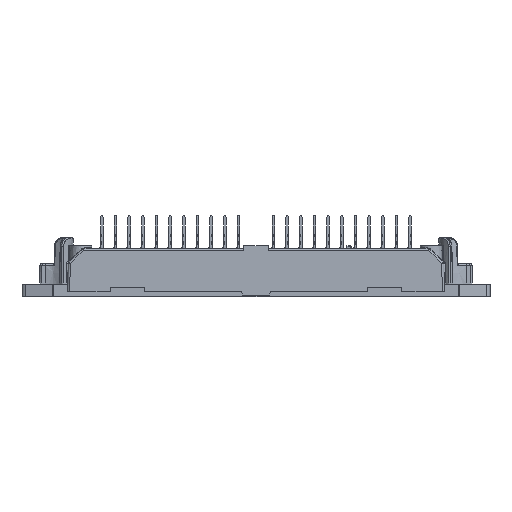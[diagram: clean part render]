
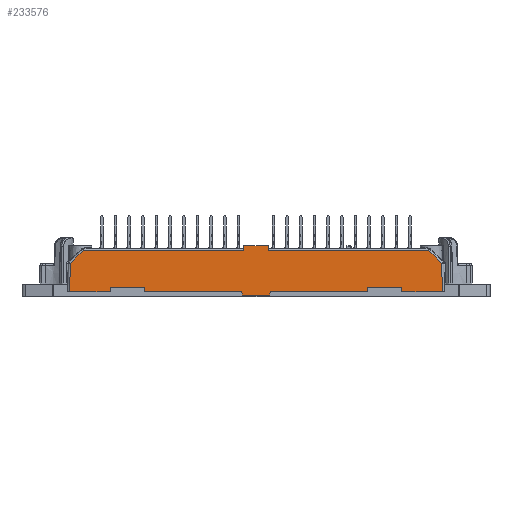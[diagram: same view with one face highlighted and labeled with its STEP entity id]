
A CAD part, front view. The second image highlights one B-rep face of the part: STEP entity #233576.
In plain terms, the highlighted planar face has unit normal (0, -1, 0.026).
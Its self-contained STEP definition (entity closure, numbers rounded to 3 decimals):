
#28501=ORIENTED_EDGE('',*,*,#72942,.F.);
#28502=ORIENTED_EDGE('',*,*,#72943,.T.);
#28503=ORIENTED_EDGE('',*,*,#72944,.F.);
#28504=ORIENTED_EDGE('',*,*,#72945,.T.);
#28505=ORIENTED_EDGE('',*,*,#72946,.T.);
#28506=ORIENTED_EDGE('',*,*,#71300,.F.);
#28507=ORIENTED_EDGE('',*,*,#71298,.T.);
#28508=ORIENTED_EDGE('',*,*,#72680,.F.);
#28509=ORIENTED_EDGE('',*,*,#71293,.T.);
#28510=ORIENTED_EDGE('',*,*,#72801,.T.);
#28511=ORIENTED_EDGE('',*,*,#71291,.T.);
#28512=ORIENTED_EDGE('',*,*,#71289,.T.);
#28513=ORIENTED_EDGE('',*,*,#72947,.T.);
#28514=ORIENTED_EDGE('',*,*,#72948,.F.);
#28515=ORIENTED_EDGE('',*,*,#72949,.T.);
#28516=ORIENTED_EDGE('',*,*,#72950,.T.);
#28517=ORIENTED_EDGE('',*,*,#72951,.T.);
#28518=ORIENTED_EDGE('',*,*,#71321,.F.);
#28519=ORIENTED_EDGE('',*,*,#71325,.T.);
#28520=ORIENTED_EDGE('',*,*,#71330,.F.);
#28521=ORIENTED_EDGE('',*,*,#71331,.F.);
#28522=ORIENTED_EDGE('',*,*,#71335,.T.);
#71289=EDGE_CURVE('',#91445,#91782,#112169,.T.);
#71291=EDGE_CURVE('',#91784,#91445,#112171,.T.);
#71293=EDGE_CURVE('',#91785,#91786,#112172,.F.);
#71298=EDGE_CURVE('',#91448,#91788,#112176,.F.);
#71300=EDGE_CURVE('',#91448,#91790,#112178,.T.);
#71321=EDGE_CURVE('',#91805,#91806,#112195,.F.);
#71325=EDGE_CURVE('',#91805,#91809,#112199,.T.);
#71330=EDGE_CURVE('',#91812,#91809,#112204,.F.);
#71331=EDGE_CURVE('',#91813,#91812,#112205,.T.);
#71335=EDGE_CURVE('',#91813,#91815,#112209,.F.);
#72680=EDGE_CURVE('',#91785,#91788,#112785,.T.);
#72801=EDGE_CURVE('',#91786,#91784,#112836,.T.);
#72942=EDGE_CURVE('',#92993,#91815,#112892,.F.);
#72943=EDGE_CURVE('',#92993,#92994,#112893,.F.);
#72944=EDGE_CURVE('',#92995,#92994,#112894,.F.);
#72945=EDGE_CURVE('',#92995,#92996,#112895,.F.);
#72946=EDGE_CURVE('',#92996,#91790,#112896,.F.);
#72947=EDGE_CURVE('',#91782,#92997,#112897,.F.);
#72948=EDGE_CURVE('',#92998,#92997,#112898,.F.);
#72949=EDGE_CURVE('',#92998,#92999,#112899,.F.);
#72950=EDGE_CURVE('',#92999,#93000,#112900,.F.);
#72951=EDGE_CURVE('',#93000,#91806,#112901,.F.);
#91445=VERTEX_POINT('',#323467);
#91448=VERTEX_POINT('',#323477);
#91782=VERTEX_POINT('',#327668);
#91784=VERTEX_POINT('',#327674);
#91785=VERTEX_POINT('',#327678);
#91786=VERTEX_POINT('',#327679);
#91788=VERTEX_POINT('',#327686);
#91790=VERTEX_POINT('',#327692);
#91805=VERTEX_POINT('',#327757);
#91806=VERTEX_POINT('',#327758);
#91809=VERTEX_POINT('',#327766);
#91812=VERTEX_POINT('',#327774);
#91813=VERTEX_POINT('',#327778);
#91815=VERTEX_POINT('',#327784);
#92993=VERTEX_POINT('',#332976);
#92994=VERTEX_POINT('',#332978);
#92995=VERTEX_POINT('',#332980);
#92996=VERTEX_POINT('',#332982);
#92997=VERTEX_POINT('',#332985);
#92998=VERTEX_POINT('',#332987);
#92999=VERTEX_POINT('',#332989);
#93000=VERTEX_POINT('',#332991);
#112169=LINE('',#327669,#132570);
#112171=LINE('',#327673,#132572);
#112172=LINE('',#327677,#132573);
#112176=LINE('',#327687,#132577);
#112178=LINE('',#327691,#132579);
#112195=LINE('',#327756,#132596);
#112199=LINE('',#327765,#132600);
#112204=LINE('',#327775,#132605);
#112205=LINE('',#327777,#132606);
#112209=LINE('',#327786,#132610);
#112785=LINE('',#332023,#133186);
#112836=LINE('',#332447,#133237);
#112892=LINE('',#332975,#133293);
#112893=LINE('',#332977,#133294);
#112894=LINE('',#332979,#133295);
#112895=LINE('',#332981,#133296);
#112896=LINE('',#332983,#133297);
#112897=LINE('',#332984,#133298);
#112898=LINE('',#332986,#133299);
#112899=LINE('',#332988,#133300);
#112900=LINE('',#332990,#133301);
#112901=LINE('',#332992,#133302);
#132570=VECTOR('',#272817,1000.);
#132572=VECTOR('',#272821,1000.);
#132573=VECTOR('',#272826,1000.);
#132577=VECTOR('',#272834,1000.);
#132579=VECTOR('',#272838,1000.);
#132596=VECTOR('',#272871,1000.);
#132600=VECTOR('',#272877,1000.);
#132605=VECTOR('',#272884,1000.);
#132606=VECTOR('',#272887,1000.);
#132610=VECTOR('',#272893,1000.);
#133186=VECTOR('',#275001,1000.);
#133237=VECTOR('',#275144,1000.);
#133293=VECTOR('',#275328,1000.);
#133294=VECTOR('',#275329,1000.);
#133295=VECTOR('',#275330,1000.);
#133296=VECTOR('',#275331,1000.);
#133297=VECTOR('',#275332,1000.);
#133298=VECTOR('',#275333,1000.);
#133299=VECTOR('',#275334,1000.);
#133300=VECTOR('',#275335,1000.);
#133301=VECTOR('',#275336,1000.);
#133302=VECTOR('',#275337,1000.);
#144977=EDGE_LOOP('',(#28501,#28502,#28503,#28504,#28505,#28506,#28507,
#28508,#28509,#28510,#28511,#28512,#28513,#28514,#28515,#28516,#28517,#28518,
#28519,#28520,#28521,#28522));
#154563=FACE_BOUND('',#144977,.T.);
#163605=PLANE('',#243273);
#233576=ADVANCED_FACE('',(#154563),#163605,.T.);
#243273=AXIS2_PLACEMENT_3D('',#332974,#275326,#275327);
#272817=DIRECTION('',(-0.707,-0.019,-0.707));
#272821=DIRECTION('',(-1.,0.,0.));
#272826=DIRECTION('',(1.,0.,0.));
#272834=DIRECTION('',(1.,0.,0.));
#272838=DIRECTION('',(0.707,-0.019,-0.707));
#272871=DIRECTION('',(1.,0.,0.));
#272877=DIRECTION('',(0.174,-0.026,-0.984));
#272884=DIRECTION('',(1.,0.,0.));
#272887=DIRECTION('',(-0.174,-0.026,-0.984));
#272893=DIRECTION('',(-1.,0.,0.));
#275001=DIRECTION('',(0.017,-0.026,-1.));
#275144=DIRECTION('',(-0.017,-0.026,-1.));
#275326=DIRECTION('',(0.,-1.,0.026));
#275327=DIRECTION('',(0.,-0.026,-1.));
#275328=DIRECTION('',(0.,0.026,1.));
#275329=DIRECTION('',(-1.,0.,0.));
#275330=DIRECTION('',(0.,-0.026,-1.));
#275331=DIRECTION('',(-1.,0.,0.));
#275332=DIRECTION('',(0.026,-0.026,-0.999));
#275333=DIRECTION('',(0.026,0.026,0.999));
#275334=DIRECTION('',(1.,0.,0.));
#275335=DIRECTION('',(0.,-0.026,-1.));
#275336=DIRECTION('',(-1.,0.,0.));
#275337=DIRECTION('',(0.,0.026,1.));
#323467=CARTESIAN_POINT('',(-40.443,-30.719,7.363));
#323477=CARTESIAN_POINT('',(40.443,-30.719,7.363));
#327668=CARTESIAN_POINT('',(-43.474,-30.798,4.332));
#327669=CARTESIAN_POINT('',(-23.298,-30.27,24.508));
#327673=CARTESIAN_POINT('',(0.,-30.719,7.363));
#327674=CARTESIAN_POINT('',(-2.845,-30.719,7.363));
#327677=CARTESIAN_POINT('',(0.,-30.689,8.5));
#327678=CARTESIAN_POINT('',(2.825,-30.689,8.5));
#327679=CARTESIAN_POINT('',(-2.825,-30.689,8.5));
#327686=CARTESIAN_POINT('',(2.845,-30.719,7.363));
#327687=CARTESIAN_POINT('',(0.,-30.719,7.363));
#327691=CARTESIAN_POINT('',(23.298,-30.27,24.508));
#327692=CARTESIAN_POINT('',(43.474,-30.798,4.332));
#327756=CARTESIAN_POINT('',(0.,-30.972,-2.3));
#327757=CARTESIAN_POINT('',(-3.359,-30.972,-2.3));
#327758=CARTESIAN_POINT('',(-26.147,-30.972,-2.3));
#327765=CARTESIAN_POINT('',(-3.861,-30.897,0.546));
#327766=CARTESIAN_POINT('',(-3.218,-30.993,-3.1));
#327774=CARTESIAN_POINT('',(3.218,-30.993,-3.1));
#327775=CARTESIAN_POINT('',(3.5,-30.993,-3.1));
#327777=CARTESIAN_POINT('',(3.861,-30.897,0.546));
#327778=CARTESIAN_POINT('',(3.359,-30.972,-2.3));
#327784=CARTESIAN_POINT('',(26.147,-30.972,-2.3));
#327786=CARTESIAN_POINT('',(0.,-30.972,-2.3));
#332023=CARTESIAN_POINT('',(2.849,-30.725,7.119));
#332447=CARTESIAN_POINT('',(-2.849,-30.725,7.119));
#332974=CARTESIAN_POINT('',(0.,-30.879,1.226));
#332975=CARTESIAN_POINT('',(26.147,-30.879,1.226));
#332976=CARTESIAN_POINT('',(26.147,-30.945,-1.3));
#332977=CARTESIAN_POINT('',(0.,-30.945,-1.3));
#332978=CARTESIAN_POINT('',(34.147,-30.945,-1.3));
#332979=CARTESIAN_POINT('',(34.147,-30.879,1.226));
#332980=CARTESIAN_POINT('',(34.147,-30.972,-2.3));
#332981=CARTESIAN_POINT('',(0.,-30.972,-2.3));
#332982=CARTESIAN_POINT('',(43.647,-30.972,-2.3));
#332983=CARTESIAN_POINT('',(43.525,-30.849,2.365));
#332984=CARTESIAN_POINT('',(-43.525,-30.849,2.365));
#332985=CARTESIAN_POINT('',(-43.647,-30.972,-2.3));
#332986=CARTESIAN_POINT('',(0.,-30.972,-2.3));
#332987=CARTESIAN_POINT('',(-34.147,-30.972,-2.3));
#332988=CARTESIAN_POINT('',(-34.147,-30.879,1.226));
#332989=CARTESIAN_POINT('',(-34.147,-30.945,-1.3));
#332990=CARTESIAN_POINT('',(0.,-30.945,-1.3));
#332991=CARTESIAN_POINT('',(-26.147,-30.945,-1.3));
#332992=CARTESIAN_POINT('',(-26.147,-30.879,1.226));
